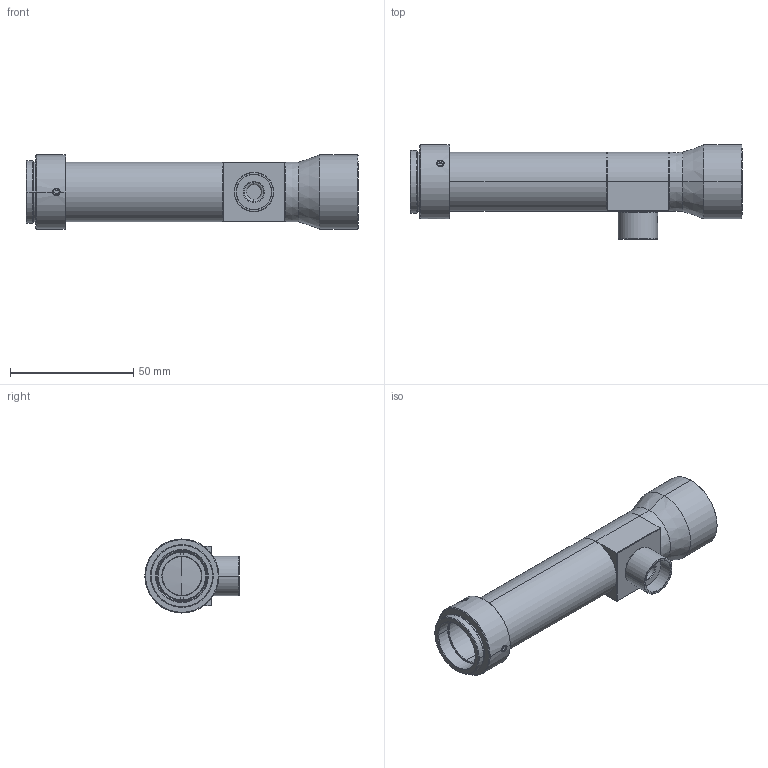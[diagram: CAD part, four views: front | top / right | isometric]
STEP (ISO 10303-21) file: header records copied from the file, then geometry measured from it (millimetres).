
FILE_DESCRIPTION((''),'2;1');
FILE_NAME('MV11101C-200_ASM','2025-09-11T11:16:42',('user'),(''),'CREO PARAMETRIC BY PTC INC, 2022073','CREO PARAMETRIC BY PTC INC, 2022073','');
FILE_SCHEMA(('CONFIG_CONTROL_DESIGN'));
Length unit declared in the file: millimetre
Products named in the file (26): MV11101A-504-V0; MV1111A-503-V2_AF0; MV1111A-505-V2_AF0; MV1111A-304-V2_AF0; MV1111A-514-V2_AF0; MV1111A-305-V2_AF0; MV1111A-515-V2_AF0; MV1111A-203_AF0_ASM; MV1111A-513-V0_AF0; MV1111A-306-V2_AF0; MV1111A-516-V0; MV1111A-204_AF0_ASM; MV65081C-505_AF0; MV1111A-317-V1_AF0; MV1111A-531-V0_AF0; MV65081A-202_AF0_ASM; MV1111A-506-V3_AF0; MV1111A-501-V1_AF0; MV1111A-601-V2_AF0; MV1111A-512-V0_AF0; MV1111A-301-V2_AF0; MV1111A-511-V1; MV1111A-201_AF0_ASM; JD30303001; JD30403011; MV11101C-200_ASM
Assembly tree (27 placements, depth 4):
  MV11101C-200_ASM
    MV11101A-504-V0
    MV1111A-204_AF0_ASM
      MV1111A-503-V2_AF0
      MV1111A-203_AF0_ASM
        MV1111A-505-V2_AF0
        MV1111A-304-V2_AF0
        MV1111A-514-V2_AF0
        MV1111A-305-V2_AF0
        MV1111A-515-V2_AF0
      MV1111A-513-V0_AF0
      MV1111A-306-V2_AF0
      MV1111A-516-V0
    MV65081A-202_AF0_ASM
      MV65081C-505_AF0
      MV1111A-317-V1_AF0
      MV1111A-531-V0_AF0
    MV1111A-506-V3_AF0
    MV1111A-201_AF0_ASM
      MV1111A-501-V1_AF0
      MV1111A-601-V2_AF0
      MV1111A-512-V0_AF0
      MV1111A-301-V2_AF0
      MV1111A-511-V1
    JD30303001  x3
    JD30403011
Bounding box: 134.43 x 38.2 x 30 mm (x, y, z)
Volume: 26254.1 mm3; surface area: 30161.7 mm2
Topology: 16 solids, 20 shells, 415 faces, 1018 edges, 642 vertices
Faces by surface type: cylinder 164, plane 125, cone 106, bspline 12, sphere 4, torus 4
Entity records: 25521 total; most frequent: CARTESIAN_POINT 16342, DIRECTION 1944, ORIENTED_EDGE 1744, EDGE_CURVE 880, AXIS2_PLACEMENT_3D 770, VERTEX_POINT 552, EDGE_LOOP 408, VECTOR 404
